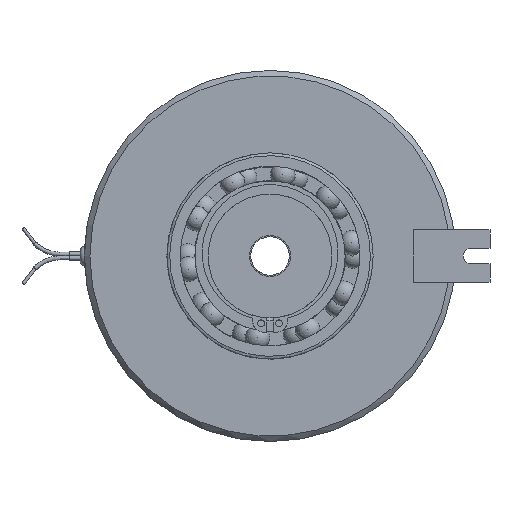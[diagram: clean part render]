
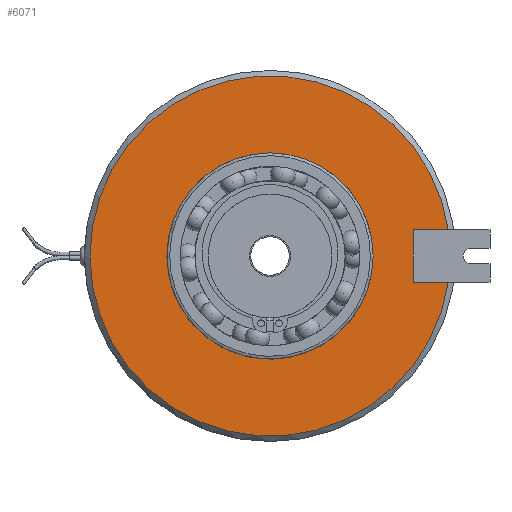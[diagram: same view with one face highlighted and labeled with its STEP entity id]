
A CAD part, left-side view. The second image highlights one B-rep face of the part: STEP entity #6071.
In plain terms, the highlighted planar face has unit normal (-1, 0, 0).
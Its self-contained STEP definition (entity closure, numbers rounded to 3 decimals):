
#350=FACE_BOUND('',#1294,.T.);
#520=PLANE('',#6861);
#857=FACE_OUTER_BOUND('',#1293,.T.);
#1293=EDGE_LOOP('',(#5397,#5398,#5399,#5400,#5401));
#1294=EDGE_LOOP('',(#5402));
#1520=LINE('',#12928,#1750);
#1521=LINE('',#12930,#1751);
#1522=LINE('',#12931,#1752);
#1750=VECTOR('',#8585,10.);
#1751=VECTOR('',#8586,10.);
#1752=VECTOR('',#8587,10.);
#1999=CIRCLE('',#6513,37.5);
#2017=CIRCLE('',#6541,65.5);
#2019=CIRCLE('',#6543,65.5);
#2511=VERTEX_POINT('',#9903);
#2535=VERTEX_POINT('',#10002);
#2536=VERTEX_POINT('',#10004);
#2537=VERTEX_POINT('',#10006);
#2811=VERTEX_POINT('',#12927);
#2812=VERTEX_POINT('',#12929);
#3251=EDGE_CURVE('',#2511,#2511,#1999,.T.);
#3281=EDGE_CURVE('',#2535,#2536,#2017,.T.);
#3283=EDGE_CURVE('',#2537,#2535,#2019,.T.);
#3678=EDGE_CURVE('',#2537,#2811,#1520,.T.);
#3679=EDGE_CURVE('',#2811,#2812,#1521,.T.);
#3680=EDGE_CURVE('',#2812,#2536,#1522,.T.);
#5397=ORIENTED_EDGE('',*,*,#3678,.T.);
#5398=ORIENTED_EDGE('',*,*,#3679,.T.);
#5399=ORIENTED_EDGE('',*,*,#3680,.T.);
#5400=ORIENTED_EDGE('',*,*,#3281,.F.);
#5401=ORIENTED_EDGE('',*,*,#3283,.F.);
#5402=ORIENTED_EDGE('',*,*,#3251,.T.);
#6071=ADVANCED_FACE('',(#857,#350),#520,.T.);
#6513=AXIS2_PLACEMENT_3D('',#9905,#7846,#7847);
#6541=AXIS2_PLACEMENT_3D('',#10005,#7912,#7913);
#6543=AXIS2_PLACEMENT_3D('',#10008,#7916,#7917);
#6861=AXIS2_PLACEMENT_3D('',#12926,#8583,#8584);
#7846=DIRECTION('center_axis',(1.,0.,0.));
#7847=DIRECTION('ref_axis',(0.,0.,-1.));
#7912=DIRECTION('center_axis',(1.,0.,0.));
#7913=DIRECTION('ref_axis',(0.,-1.,0.));
#7916=DIRECTION('center_axis',(1.,0.,0.));
#7917=DIRECTION('ref_axis',(0.,-1.,0.));
#8583=DIRECTION('center_axis',(-1.,0.,0.));
#8584=DIRECTION('ref_axis',(0.,0.,
1.));
#8585=DIRECTION('',(0.,1.,0.));
#8586=DIRECTION('',(0.,0.,1.));
#8587=DIRECTION('',(0.,-1.,0.));
#9903=CARTESIAN_POINT('',(-19.5,-37.5,0.));
#9905=CARTESIAN_POINT('Origin',(-19.5,0.,0.));
#10002=CARTESIAN_POINT('',(-19.5,65.5,0.));
#10004=CARTESIAN_POINT('',(-19.5,-64.807,9.5));
#10005=CARTESIAN_POINT('Origin',(-19.5,0.,0.));
#10006=CARTESIAN_POINT('',(-19.5,-64.807,-9.5));
#10008=CARTESIAN_POINT('Origin',(-19.5,0.,0.));
#12926=CARTESIAN_POINT('Origin',(-19.5,67.5,0.));
#12927=CARTESIAN_POINT('',(-19.5,-52.,-9.5));
#12928=CARTESIAN_POINT('',(-19.5,-6.25,-9.5));
#12929=CARTESIAN_POINT('',(-19.5,-52.,9.5));
#12930=CARTESIAN_POINT('',(-19.5,-52.,-4.75));
#12931=CARTESIAN_POINT('',(-19.5,7.75,9.5));
